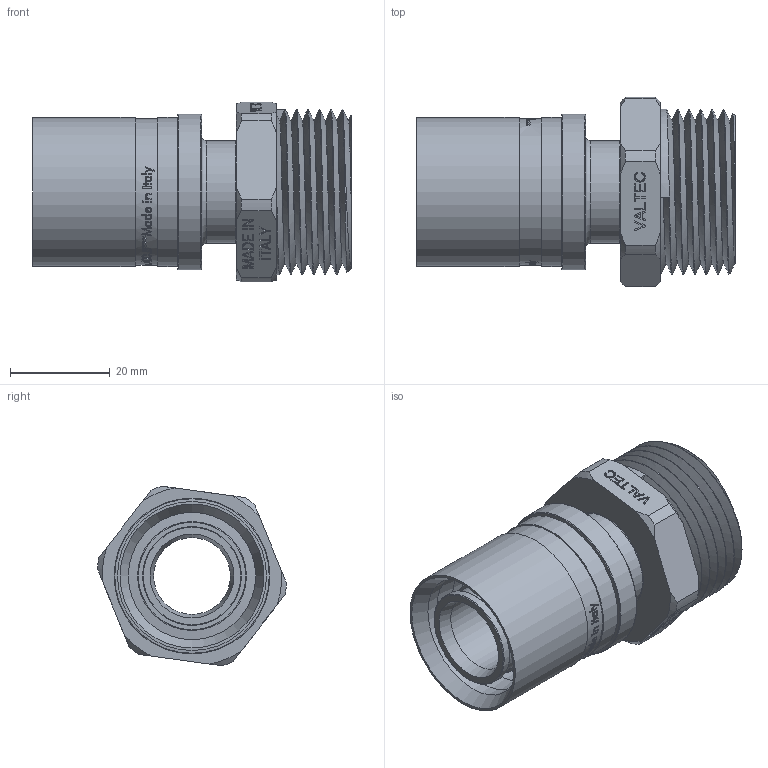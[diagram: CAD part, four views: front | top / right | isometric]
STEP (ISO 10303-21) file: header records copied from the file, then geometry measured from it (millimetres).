
FILE_DESCRIPTION(/* description */ (''),/* implementation_level */ '2;1');
FILE_NAME(/* name */ 'F:\Артём\00000\Работа удаленка\Аксеальные фитинги\VTm.401.BG.002506.stp',/* time_stamp */ '2021-01-25T14:14:10+03:00',/* author */ ('almis'),/* organization */ (''),/* preprocessor_version */ 'ST-DEVELOPER v18',/* originating_system */ 'Autodesk Inventor 2020',/* authorisation */ '');
FILE_SCHEMA (('AUTOMOTIVE_DESIGN { 1 0 10303 214 3 1 1 }'));
Length unit declared in the file: millimetre
Products named in the file (1): VTm.403.BG.001616
Bounding box: 63.81 x 37.89 x 35.99 mm (x, y, z)
Volume: 21079.4 mm3; surface area: 17842.1 mm2
Topology: 1 solids, 1 shells, 983 faces, 2698 edges, 1816 vertices
Faces by surface type: plane 427, bspline 414, cylinder 97, torus 24, cone 21
Full cylindrical faces by diameter (mm): 15.4 x1, 18.3 x5, 19.8 x4, 20.5 x1, 21.8 x1, 25 x1, 25.5 x2, 28.6 x6, 29.3 x1, 29.85 x2, 31.2 x1, 33.2 x5
Entity records: 39821 total; most frequent: CARTESIAN_POINT 17301, ORIENTED_EDGE 5396, DIRECTION 3370, EDGE_CURVE 2698, VERTEX_POINT 1816, LINE 1404, VECTOR 1404, EDGE_LOOP 1084
